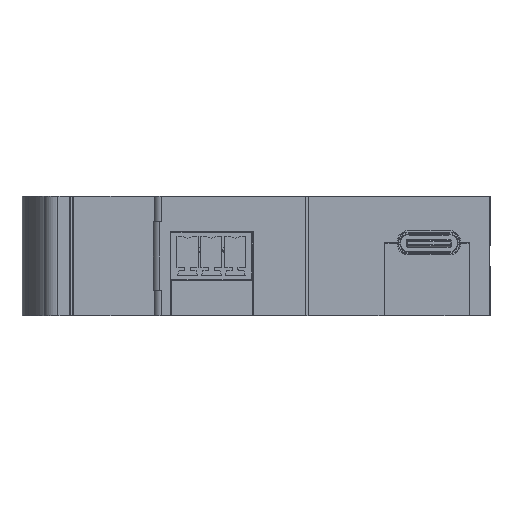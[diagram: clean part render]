
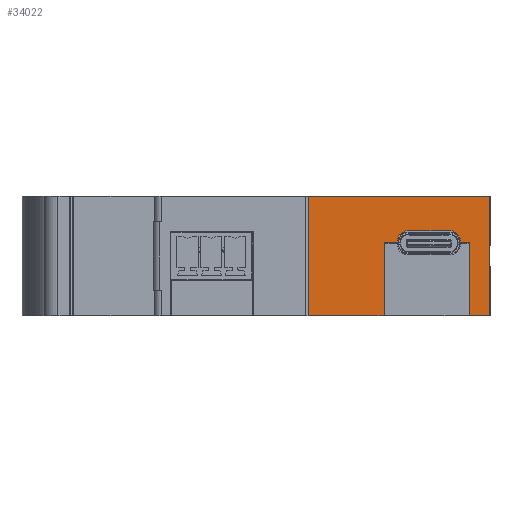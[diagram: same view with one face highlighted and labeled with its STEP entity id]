
A CAD part, left-side view. The second image highlights one B-rep face of the part: STEP entity #34022.
In plain terms, the highlighted planar face has unit normal (-1, 0, 0).
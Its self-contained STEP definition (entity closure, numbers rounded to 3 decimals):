
#1199 = VECTOR ( 'NONE', #15891, 1000. ) ;
#3475 = LINE ( 'NONE', #118985, #6777 ) ;
#5839 = VECTOR ( 'NONE', #22148, 1000. ) ;
#6076 = EDGE_CURVE ( 'NONE', #86200, #22665, #111064, .T. ) ;
#6777 = VECTOR ( 'NONE', #45556, 1000. ) ;
#6947 = CARTESIAN_POINT ( 'NONE',  ( -50.734, -17.957, 128.055 ) ) ;
#8043 = DIRECTION ( 'NONE',  ( 1., 0., 0. ) ) ;
#9911 = AXIS2_PLACEMENT_3D ( 'NONE', #65070, #97264, #22832 ) ;
#13623 = LINE ( 'NONE', #101149, #43990 ) ;
#13689 = VECTOR ( 'NONE', #16630, 1000. ) ;
#13733 = CARTESIAN_POINT ( 'NONE',  ( -50.734, -17.957, 128.055 ) ) ;
#15848 = CARTESIAN_POINT ( 'NONE',  ( -50.734, -33.527, 134.855 ) ) ;
#15891 = DIRECTION ( 'NONE',  ( 0., 0., 1. ) ) ;
#16178 = ORIENTED_EDGE ( 'NONE', *, *, #58362, .T. ) ;
#16630 = DIRECTION ( 'NONE',  ( 0., 0., -1. ) ) ;
#18029 = DIRECTION ( 'NONE',  ( 0., -1., 0. ) ) ;
#18105 = VECTOR ( 'NONE', #88224, 1000. ) ;
#19086 = ORIENTED_EDGE ( 'NONE', *, *, #76275, .T. ) ;
#19421 = CARTESIAN_POINT ( 'NONE',  ( -50.734, -27.707, 128.305 ) ) ;
#22148 = DIRECTION ( 'NONE',  ( 0., -1., 0. ) ) ;
#22665 = VERTEX_POINT ( 'NONE', #35045 ) ;
#22832 = DIRECTION ( 'NONE',  ( 0., 0., -1. ) ) ;
#23110 = LINE ( 'NONE', #13733, #18105 ) ;
#24747 = CARTESIAN_POINT ( 'NONE',  ( -50.734, -29.157, 128.055 ) ) ;
#27178 = LINE ( 'NONE', #71398, #13689 ) ;
#27452 = ORIENTED_EDGE ( 'NONE', *, *, #48123, .F. ) ;
#28766 = CARTESIAN_POINT ( 'NONE',  ( -50.734, -6.827, 134.855 ) ) ;
#29195 = LINE ( 'NONE', #125813, #136429 ) ;
#31327 = EDGE_LOOP ( 'NONE', ( #83972, #42381, #88146, #77839, #16178, #95234, #60369, #50302, #19086, #71368, #27452, #60547, #67381, #59649 ) ) ;
#33783 = CARTESIAN_POINT ( 'NONE',  ( -50.734, -30.557, 117.255 ) ) ;
#33798 = LINE ( 'NONE', #28766, #90662 ) ;
#33956 = VERTEX_POINT ( 'NONE', #114458 ) ;
#33997 = AXIS2_PLACEMENT_3D ( 'NONE', #19421, #126287, #106071 ) ;
#34022 = ADVANCED_FACE ( 'NONE', ( #136781 ), #137397, .F. ) ;
#35045 = CARTESIAN_POINT ( 'NONE',  ( -50.734, -17.957, 117.255 ) ) ;
#38573 = DIRECTION ( 'NONE',  ( 0., 0., -1. ) ) ;
#39314 = VERTEX_POINT ( 'NONE', #68671 ) ;
#41677 = LINE ( 'NONE', #93350, #66774 ) ;
#42297 = VECTOR ( 'NONE', #58547, 1000. ) ;
#42381 = ORIENTED_EDGE ( 'NONE', *, *, #50355, .T. ) ;
#43353 = CARTESIAN_POINT ( 'NONE',  ( -50.734, -19.957, 128.305 ) ) ;
#43990 = VECTOR ( 'NONE', #110607, 1000. ) ;
#45556 = DIRECTION ( 'NONE',  ( 0., 0., 1. ) ) ;
#48123 = EDGE_CURVE ( 'NONE', #61328, #39314, #106863, .T. ) ;
#50302 = ORIENTED_EDGE ( 'NONE', *, *, #131193, .T. ) ;
#50355 = EDGE_CURVE ( 'NONE', #69557, #22665, #29195, .T. ) ;
#51931 = CARTESIAN_POINT ( 'NONE',  ( -50.734, -6.827, 134.855 ) ) ;
#52855 = VERTEX_POINT ( 'NONE', #65118 ) ;
#55808 = VERTEX_POINT ( 'NONE', #15848 ) ;
#57939 = EDGE_CURVE ( 'NONE', #70295, #52855, #134569, .T. ) ;
#58102 = EDGE_CURVE ( 'NONE', #55808, #116539, #27178, .T. ) ;
#58362 = EDGE_CURVE ( 'NONE', #33956, #70295, #3475, .T. ) ;
#58547 = DIRECTION ( 'NONE',  ( 0., 1., 0. ) ) ;
#59649 = ORIENTED_EDGE ( 'NONE', *, *, #109606, .F. ) ;
#60369 = ORIENTED_EDGE ( 'NONE', *, *, #100870, .F. ) ;
#60547 = ORIENTED_EDGE ( 'NONE', *, *, #85956, .T. ) ;
#60776 = LINE ( 'NONE', #122616, #132837 ) ;
#60847 = VERTEX_POINT ( 'NONE', #112325 ) ;
#61328 = VERTEX_POINT ( 'NONE', #33783 ) ;
#64831 = CARTESIAN_POINT ( 'NONE',  ( -50.734, -6.827, 117.255 ) ) ;
#65070 = CARTESIAN_POINT ( 'NONE',  ( -50.734, -21.407, 128.305 ) ) ;
#65118 = CARTESIAN_POINT ( 'NONE',  ( -50.734, -21.407, 129.755 ) ) ;
#66774 = VECTOR ( 'NONE', #136081, 1000. ) ;
#67381 = ORIENTED_EDGE ( 'NONE', *, *, #58102, .F. ) ;
#68671 = CARTESIAN_POINT ( 'NONE',  ( -50.734, -30.557, 128.055 ) ) ;
#69176 = DIRECTION ( 'NONE',  ( 0., 0., -1. ) ) ;
#69557 = VERTEX_POINT ( 'NONE', #122653 ) ;
#70295 = VERTEX_POINT ( 'NONE', #43353 ) ;
#70756 = VERTEX_POINT ( 'NONE', #110820 ) ;
#71368 = ORIENTED_EDGE ( 'NONE', *, *, #86761, .F. ) ;
#71398 = CARTESIAN_POINT ( 'NONE',  ( -50.734, -33.527, 134.855 ) ) ;
#76275 = EDGE_CURVE ( 'NONE', #60847, #108562, #60776, .T. ) ;
#77839 = ORIENTED_EDGE ( 'NONE', *, *, #131367, .F. ) ;
#81227 = LINE ( 'NONE', #64831, #5839 ) ;
#81764 = CIRCLE ( 'NONE', #33997, 1.45 ) ;
#82463 = VECTOR ( 'NONE', #93110, 1000. ) ;
#83972 = ORIENTED_EDGE ( 'NONE', *, *, #88409, .T. ) ;
#85956 = EDGE_CURVE ( 'NONE', #61328, #116539, #81227, .T. ) ;
#86200 = VERTEX_POINT ( 'NONE', #136815 ) ;
#86761 = EDGE_CURVE ( 'NONE', #39314, #108562, #105890, .T. ) ;
#88146 = ORIENTED_EDGE ( 'NONE', *, *, #6076, .F. ) ;
#88224 = DIRECTION ( 'NONE',  ( 0., 1., 0. ) ) ;
#88409 = EDGE_CURVE ( 'NONE', #93354, #69557, #33798, .T. ) ;
#90662 = VECTOR ( 'NONE', #38573, 1000. ) ;
#93110 = DIRECTION ( 'NONE',  ( 0., 0., -1. ) ) ;
#93350 = CARTESIAN_POINT ( 'NONE',  ( -50.734, -6.827, 134.855 ) ) ;
#93354 = VERTEX_POINT ( 'NONE', #51931 ) ;
#94176 = AXIS2_PLACEMENT_3D ( 'NONE', #127129, #8043, #136026 ) ;
#95234 = ORIENTED_EDGE ( 'NONE', *, *, #57939, .T. ) ;
#97264 = DIRECTION ( 'NONE',  ( 1., 0., 0. ) ) ;
#100870 = EDGE_CURVE ( 'NONE', #70756, #52855, #13623, .T. ) ;
#101149 = CARTESIAN_POINT ( 'NONE',  ( -50.734, -6.827, 129.755 ) ) ;
#105395 = CARTESIAN_POINT ( 'NONE',  ( -50.734, -33.527, 117.255 ) ) ;
#105890 = LINE ( 'NONE', #112328, #42297 ) ;
#106071 = DIRECTION ( 'NONE',  ( 0., 0., -1. ) ) ;
#106863 = LINE ( 'NONE', #133555, #1199 ) ;
#108562 = VERTEX_POINT ( 'NONE', #24747 ) ;
#109606 = EDGE_CURVE ( 'NONE', #93354, #55808, #41677, .T. ) ;
#110607 = DIRECTION ( 'NONE',  ( 0., 1., 0. ) ) ;
#110820 = CARTESIAN_POINT ( 'NONE',  ( -50.734, -27.707, 129.755 ) ) ;
#111064 = LINE ( 'NONE', #6947, #82463 ) ;
#112325 = CARTESIAN_POINT ( 'NONE',  ( -50.734, -29.157, 128.305 ) ) ;
#112328 = CARTESIAN_POINT ( 'NONE',  ( -50.734, -17.957, 128.055 ) ) ;
#114458 = CARTESIAN_POINT ( 'NONE',  ( -50.734, -19.957, 128.055 ) ) ;
#116539 = VERTEX_POINT ( 'NONE', #105395 ) ;
#118985 = CARTESIAN_POINT ( 'NONE',  ( -50.734, -19.957, 134.855 ) ) ;
#122616 = CARTESIAN_POINT ( 'NONE',  ( -50.734, -29.157, 134.855 ) ) ;
#122653 = CARTESIAN_POINT ( 'NONE',  ( -50.734, -6.827, 117.255 ) ) ;
#125813 = CARTESIAN_POINT ( 'NONE',  ( -50.734, -6.827, 117.255 ) ) ;
#126287 = DIRECTION ( 'NONE',  ( 1., 0., 0. ) ) ;
#127129 = CARTESIAN_POINT ( 'NONE',  ( -50.734, -6.827, 134.855 ) ) ;
#131193 = EDGE_CURVE ( 'NONE', #70756, #60847, #81764, .T. ) ;
#131367 = EDGE_CURVE ( 'NONE', #33956, #86200, #23110, .T. ) ;
#132837 = VECTOR ( 'NONE', #69176, 1000. ) ;
#133555 = CARTESIAN_POINT ( 'NONE',  ( -50.734, -30.557, 128.055 ) ) ;
#134569 = CIRCLE ( 'NONE', #9911, 1.45 ) ;
#136026 = DIRECTION ( 'NONE',  ( 0., 0., -1. ) ) ;
#136081 = DIRECTION ( 'NONE',  ( 0., -1., 0. ) ) ;
#136429 = VECTOR ( 'NONE', #18029, 1000. ) ;
#136781 = FACE_OUTER_BOUND ( 'NONE', #31327, .T. ) ;
#136815 = CARTESIAN_POINT ( 'NONE',  ( -50.734, -17.957, 128.055 ) ) ;
#137397 = PLANE ( 'NONE',  #94176 ) ;
